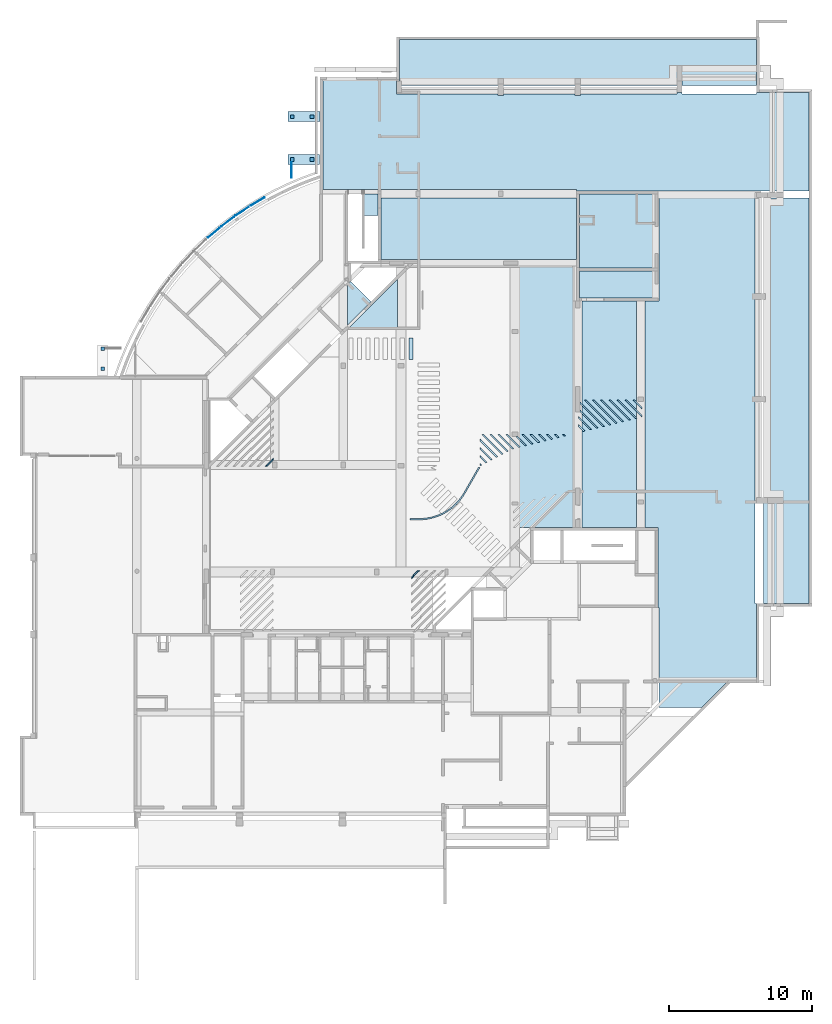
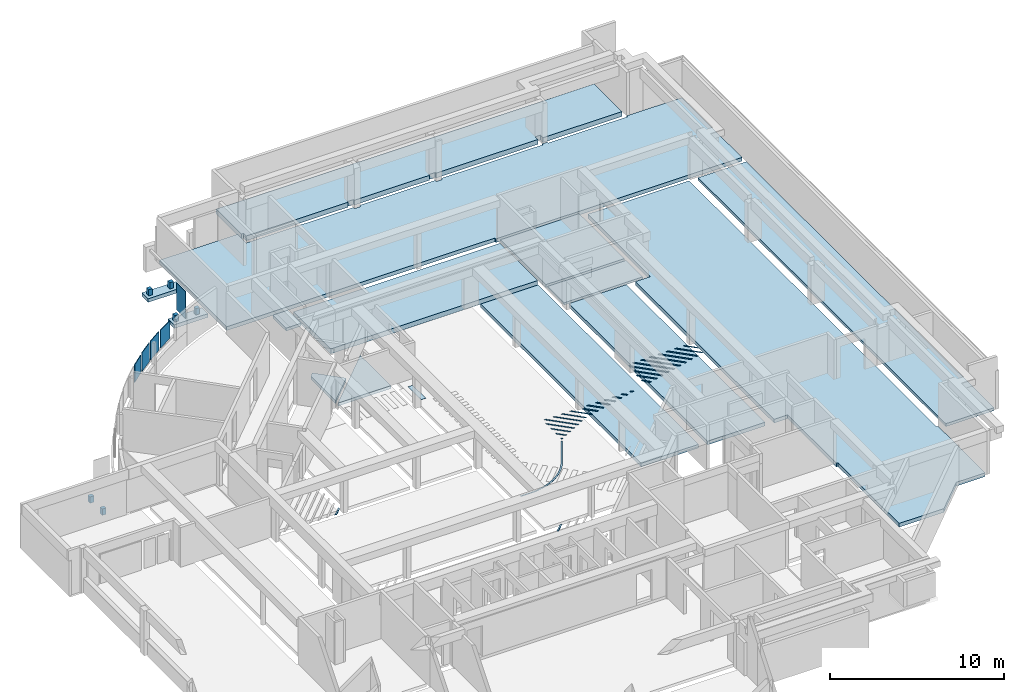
# One storey, part 6 of 22: 23 slabs, 5 plates.
"""IFC4X3_ADD2 building model written with IfcOpenShell, lengths in millimetres."""

from ifc_helpers import new_model, si_unit, point, direction, frame, frame_2d, origin_with_axes, origin_2d_with_axis, place, context, subcontext, project, spatial, polyline, circle_curve, trimmed, segment, composite_curve, rectangle, outline, extrude, source, transform, mapped, material, type_object, type_shapes, element, save


model = new_model("IFC4X3_ADD2")

# Units and contexts
model_context = context("Model", 3, precision=1e-05, world=origin_with_axes(), true_north=direction((0.0, 1.0)))
body_context = subcontext(model_context, "Body", "Model", "MODEL_VIEW")
ifc_project = project(units=[si_unit("LENGTHUNIT", "METRE", prefix="MILLI"), si_unit("AREAUNIT", "SQUARE_METRE"), si_unit("VOLUMEUNIT", "CUBIC_METRE"), si_unit("PLANEANGLEUNIT", "RADIAN"), si_unit("TIMEUNIT", "SECOND"), si_unit("MASSUNIT", "GRAM")], contexts=[model_context])

# Site, building, storey
site_placement = place(None, origin_with_axes())
site = spatial("IfcSite", under=ifc_project, at=site_placement, Name="Site", CompositionType="ELEMENT")
building_placement = place(site_placement, origin_with_axes())
building = spatial("IfcBuilding", under=site, at=building_placement, Name="IFC Building Story")
storey_placement = place(building_placement, frame((0.0, 0.0, -3240.0), z_axis=(0.0, 0.0, 1.0), x_axis=(1.0, 0.0, 0.0)))
storey = spatial("IfcBuildingStorey", under=building, at=storey_placement, Name="K10", Elevation=-3240.0)

# Slabs
ifc_material_1 = material(Name="BB_Beton_Bestaand")
slab_type_1 = type_object("IfcSlabType", Name="BB_Beton_Bestaand 200", PredefinedType="FLOOR", material=ifc_material_1)
slab_1_placement = place(storey_placement, frame((-12500.00406588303, 38300.00000000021, -200.0), z_axis=(0.0, 0.0, 1.0), x_axis=(1.0, 0.0, 0.0)))
element("IfcSlab", 1, at=slab_1_placement, inside=storey, type_object=slab_type_1, Name="Floor:BB_XX_Vloer uit beton, 200 mm", ObjectType="Floor:BB_XX_Vloer uit beton, 200 mm", PredefinedType="FLOOR", context=body_context, shape_type="SweptSolid", body=[
    extrude(rectangle(XDim=5200.004065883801, YDim=5199.999999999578, at=origin_2d_with_axis()), frame((2600.0020329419, 2599.999999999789, 0.0), z_axis=(0.0, 0.0, 1.0), x_axis=(1.0, 0.0, 0.0)), (0.0, 0.0, 1.0), 200.0),
])
slab_2_placement = place(storey_placement, frame((405.0000000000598, 43199.9999999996, -200.0), z_axis=(0.0, 0.0, 1.0), x_axis=(0.0, -1.0, 0.0)))
element("IfcSlab", 2, at=slab_2_placement, inside=storey, type_object=slab_type_1, Name="Floor:BB_XX_Vloer welfsels, 200 mm", ObjectType="Floor:BB_XX_Vloer welfsels, 200 mm", PredefinedType="FLOOR", context=body_context, shape_type="SweptSolid", body=[
    extrude(rectangle(XDim=28404.9999999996, YDim=3194.82543599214, at=frame_2d((0.0, 0.0), x_axis=(-1.0, 0.0))), frame((14202.4999999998, 1597.41271799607, 0.0), z_axis=(0.0, 0.0, 1.0), x_axis=(1.0, 0.0, 0.0)), (0.0, 0.0, 1.0), 200.0),
])
slab_3_placement = place(storey_placement, frame((-27580.0, 43500.00000000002, -200.0), z_axis=(0.0, 0.0, 1.0), x_axis=(0.0, -1.0, 0.0)))
element("IfcSlab", 3, at=slab_3_placement, inside=storey, type_object=slab_type_1, Name="Floor:BB_XX_Vloer welfsels, 200 mm", ObjectType="Floor:BB_XX_Vloer welfsels, 200 mm", PredefinedType="FLOOR", context=body_context, shape_type="SweptSolid", body=[
    extrude(rectangle(XDim=1519.989335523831, YDim=979.9999999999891, at=frame_2d((0.0, 0.0), x_axis=(-1.0, 0.0))), frame((759.9946677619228, 489.9999999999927, 0.0), z_axis=(0.0, 0.0, 1.0), x_axis=(1.0, 0.0, 0.0)), (0.0, 0.0, 1.0), 200.0),
])
slab_type_2 = type_object("IfcSlabType", Name="BB_Beton_Bestaand 250", PredefinedType="FLOOR", material=ifc_material_1)
slab_4_placement = place(storey_placement, frame((-16699.99999999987, 38500.00000000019, -250.0), z_axis=(0.0, 0.0, 1.0), x_axis=(0.0, -1.0, 0.0)))
element("IfcSlab", 4, at=slab_4_placement, inside=storey, type_object=slab_type_2, Name="Floor:BB_XX_Vloer welfsels, 250 mm", ObjectType="Floor:BB_XX_Vloer welfsels, 250 mm", PredefinedType="FLOOR", context=body_context, shape_type="SweptSolid", body=[
    extrude(rectangle(XDim=18400.00000000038, YDim=3799.99999999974, at=frame_2d((0.0, 0.0), x_axis=(-1.0, 0.0))), frame((9200.00000000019, 1899.999999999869, 0.0), z_axis=(0.0, 0.0, 1.0), x_axis=(1.0, 0.0, 0.0)), (0.0, 0.0, 1.0), 250.0),
])
slab_5_placement = place(storey_placement, frame((-12300.00000000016, 36000.00000000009, -250.0), z_axis=(0.0, 0.0, 1.0), x_axis=(0.0, -1.0, 0.0)))
element("IfcSlab", 5, at=slab_5_placement, inside=storey, type_object=slab_type_2, Name="Floor:BB_XX_Vloer welfsels, 250 mm", ObjectType="Floor:BB_XX_Vloer welfsels, 250 mm", PredefinedType="FLOOR", context=body_context, shape_type="SweptSolid", body=[
    extrude(rectangle(XDim=15900.00000000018, YDim=3800.00000000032, at=frame_2d((0.0, 0.0), x_axis=(-1.0, 0.0))), frame((7950.000000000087, 1900.00000000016, 0.0), z_axis=(0.0, 0.0, 1.0), x_axis=(1.0, 0.0, 0.0)), (0.0, 0.0, 1.0), 250.0),
])
slab_type_3 = type_object("IfcSlabType", Name="Floor_BB_XX_Vloer uit beton_ 210 mm1", PredefinedType="NOTDEFINED")
shared_shape_1 = source(origin_with_axes(), body_context, "Body", "SweptSolid", [
    extrude(outline(polyline([(2098.696320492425, -703.8997455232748), (-1401.303679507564, -703.8997455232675), (-1401.303679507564, -690.8817721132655), (-1394.785281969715, -697.4001696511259), (2098.696320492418, 2796.081432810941), (2098.696320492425, -703.8997455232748)])), frame((-27348.6963204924, 34714.18396188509, -210.0), z_axis=(0.0, 0.0, 1.0), x_axis=(1.0, 0.0, 0.0)), (0.0, 0.0, 1.0), 210.0),
    extrude(outline(polyline([(-235.1287453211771, 1185.386235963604), (1185.386235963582, -235.1287453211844), (-475.1287453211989, -1895.643726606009), (-475.1287453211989, 945.3862359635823), (-235.1287453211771, 1185.386235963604)])), frame((-28274.8712546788, 36174.609698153, -210.0), z_axis=(0.0, 0.0, 1.0), x_axis=(1.0, 0.0, 0.0)), (0.0, 0.0, 1.0), 210.0),
])
type_shapes(slab_type_3, [shared_shape_1])
slab_6_placement = place(storey_placement, origin_with_axes())
element("IfcSlab", 6, at=slab_6_placement, inside=storey, type_object=slab_type_3, material=ifc_material_1, Name="Floor:BB_XX_Vloer uit beton, 210 mm", ObjectType="Floor:BB_XX_Vloer uit beton, 210 mm", PredefinedType="FLOOR", context=body_context, shape_type="MappedRepresentation", body=[
    mapped(shared_shape_1, transform((0.0, 0.0, 0.0))),
])
slab_type_4 = type_object("IfcSlabType", Name="BB_Beton_Bestaand 340", PredefinedType="FLOOR", material=ifc_material_1)
slab_7_placement = place(storey_placement, frame((-26399.99999999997, 38899.99999999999, -340.0), z_axis=(0.0, 0.0, 1.0), x_axis=(1.0, 0.0, 0.0)))
element("IfcSlab", 7, at=slab_7_placement, inside=storey, type_object=slab_type_4, Name="Floor:BB_XX_Vloer welfsels, 340 mm", ObjectType="Floor:BB_XX_Vloer welfsels, 340 mm", PredefinedType="FLOOR", context=body_context, shape_type="SweptSolid", body=[
    extrude(rectangle(XDim=13699.99593411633, YDim=4300.000000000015, at=origin_2d_with_axis()), frame((6849.997967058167, 2150.000000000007, 0.0), z_axis=(0.0, 0.0, 1.0), x_axis=(1.0, 0.0, 0.0)), (0.0, 0.0, 1.0), 340.0),
])
slab_8_placement = place(storey_placement, frame((-25105.0, 51105.00000000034, -340.0), z_axis=(0.0, 0.0, 1.0), x_axis=(1.0, 0.0, 0.0)))
element("IfcSlab", 8, at=slab_8_placement, inside=storey, type_object=slab_type_4, Name="Floor:BB_XX_Vloer welfsels, 340 mm", ObjectType="Floor:BB_XX_Vloer welfsels, 340 mm", PredefinedType="FLOOR", context=body_context, shape_type="SweptSolid", body=[
    extrude(outline(polyline([(-10217.76744527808, -434.4931229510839), (-10217.76744527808, -134.4931229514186), (-10367.76744527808, -134.4931229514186), (-10367.76744527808, -34.49312295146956), (-10362.76744527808, -34.49312295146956), (-10362.76744527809, 2760.43810656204), (14672.23255472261, 2760.43810656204), (14672.23255472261, -434.4931229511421), (9432.232554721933, -434.4931229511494), (9432.232554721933, -134.4931229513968), (9092.232554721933, -134.4931229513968), (9092.232554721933, -434.4931229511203), (2337.901167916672, -434.4931229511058), (2337.901167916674, -359.4931229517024), (1937.901167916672, -359.4931229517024), (1937.901167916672, -434.493122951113), (-3062.098832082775, -434.4931229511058), (-3062.098832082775, -359.4931229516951), (-3462.098832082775, -359.4931229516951), (-3462.098832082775, -434.4931229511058), (-10217.76744527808, -434.4931229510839)])), frame((10367.76744527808, 434.4931229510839, 0.0), z_axis=(0.0, 0.0, 1.0), x_axis=(1.0, 0.0, 0.0)), (0.0, 0.0, 1.0), 340.0),
])

# Plates
ifc_material_2 = material(Name="BB_Glas")
shared_shape_2 = source(origin_with_axes(), body_context, "Body", "SweptSolid", [
    extrude(rectangle(XDim=1320.000000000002, YDim=1108.000000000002, at=frame_2d((0.0, 0.0), x_axis=(0.0, 1.0))), frame((0.0, 0.0, -44.0), z_axis=(0.0, 0.0, 1.0), x_axis=(1.0, 0.0, 0.0)), (0.0, 0.0, 1.0), 44.0),
])
for number, where, z_axis, x_axis in (
    (9, (-37156.0835286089, 41567.9783362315, 1585.0), (-0.6041911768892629, 0.7968393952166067, 0.0), (-0.7968393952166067, -0.6041911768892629, 0.0)),
    (10, (-36139.5142251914, 42295.3484664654, 1585.0), (-0.5591648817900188, 0.8290564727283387, 0.0), (-0.8290564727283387, -0.5591648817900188, 0.0)),
):
    element("IfcPlate", number, at=place(storey_placement, frame(where, z_axis=z_axis, x_axis=x_axis)), inside=storey, material=ifc_material_2, Name="BB_07.06_Buitenbeglazing, rechthoekig_GMO:07.06.72#02_Drievoudige beglazing, 44 mm, A/A*/P4A RC2, -1 en +0", ObjectType="BB_07.06_Buitenbeglazing, rechthoekig_GMO:07.06.72#02_Drievoudige beglazing, 44 mm, A/A*/P4A RC2, -1 en +0", PredefinedType="USERDEFINED", context=body_context, shape_type="MappedRepresentation", body=[
        mapped(shared_shape_2, transform((0.0, 0.0, 0.0))),
    ])
shared_shape_3 = source(origin_with_axes(), body_context, "Body", "SweptSolid", [
    extrude(rectangle(XDim=1242.000000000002, YDim=1030.000000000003, at=frame_2d((0.0, 0.0), x_axis=(0.0, 1.0))), frame((0.0, 0.0, -44.0), z_axis=(0.0, 0.0, 1.0), x_axis=(1.0, 0.0, 0.0)), (0.0, 0.0, 1.0), 44.0),
])
plate_1_placement = place(storey_placement, frame((-38133.1083414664, 40783.2004712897, 1585.0), z_axis=(-0.647662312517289, 0.761927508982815, 0.0), x_axis=(-0.761927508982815, -0.647662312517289, 0.0)))
element("IfcPlate", 11, at=plate_1_placement, inside=storey, material=ifc_material_2, Name="BB_07.06_Buitenbeglazing, rechthoekig_GMO:07.06.72#02_Drievoudige beglazing, 44 mm, A/A*/P4A RC2, -1 en +0", ObjectType="BB_07.06_Buitenbeglazing, rechthoekig_GMO:07.06.72#02_Drievoudige beglazing, 44 mm, A/A*/P4A RC2, -1 en +0", PredefinedType="USERDEFINED", context=body_context, shape_type="MappedRepresentation", body=[
    mapped(shared_shape_3, transform((0.0, 0.0, 0.0))),
])
shared_shape_4 = source(origin_with_axes(), body_context, "Body", "SweptSolid", [
    extrude(rectangle(XDim=1242.000000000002, YDim=1096.000000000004, at=frame_2d((0.0, 0.0), x_axis=(0.0, 1.0))), frame((0.0, 0.0, -44.0), z_axis=(0.0, 0.0, 1.0), x_axis=(1.0, 0.0, 0.0)), (0.0, 0.0, 1.0), 44.0),
])
plate_2_placement = place(storey_placement, frame((-35052.9452503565, 42983.1140551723, 1585.0), z_axis=(-0.5114280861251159, 0.8593260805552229, 0.0), x_axis=(0.8593260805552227, 0.5114280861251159, 0.0)))
element("IfcPlate", 12, at=plate_2_placement, inside=storey, material=ifc_material_2, Name="BB_07.06_Buitenbeglazing, rechthoekig_GMO:07.06.72#02_Drievoudige beglazing, 44 mm, A/A*/P4A RC2, -1 en +0", ObjectType="BB_07.06_Buitenbeglazing, rechthoekig_GMO:07.06.72#02_Drievoudige beglazing, 44 mm, A/A*/P4A RC2, -1 en +0", PredefinedType="USERDEFINED", context=body_context, shape_type="MappedRepresentation", body=[
    mapped(shared_shape_4, transform((0.0, 0.0, 0.0))),
])
shared_shape_5 = source(origin_with_axes(), body_context, "Body", "SweptSolid", [
    extrude(rectangle(XDim=1896.000000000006, YDim=1058.000000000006, at=frame_2d((0.0, 0.0), x_axis=(0.0, 1.0))), frame((0.0, 0.0, -40.0), z_axis=(0.0, 0.0, 1.0), x_axis=(1.0, 0.0, 0.0)), (0.0, 0.0, 1.0), 40.0),
])
plate_3_placement = place(storey_placement, frame((-32657.0009542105, 45170.0, 1786.0), z_axis=(1.0, 0.0, 0.0), x_axis=(0.0, 1.0, 0.0)))
element("IfcPlate", 13, at=plate_3_placement, inside=storey, material=ifc_material_2, Name="BB_07.06_Buitenbeglazing, rechthoekig_GMO:XX_Geen", ObjectType="BB_07.06_Buitenbeglazing, rechthoekig_GMO:XX_Geen", PredefinedType="USERDEFINED", context=body_context, shape_type="MappedRepresentation", body=[
    mapped(shared_shape_5, transform((0.0, 0.0, 0.0))),
])

# Slabs
ifc_material_3 = material(Name="BB_Belijning parkeervakken_Nieuw")
slab_type_5 = type_object("IfcSlabType", Name="BB_Belijning parkeervakken_Nieuw 10", PredefinedType="FLOOR", material=ifc_material_3)
slab_9_placement = place(storey_placement, frame((-24450.0, 33400.0, 0.0), z_axis=(0.0, 0.0, 1.0), x_axis=(0.0, -1.0, 0.0)))
element("IfcSlab", 14, at=slab_9_placement, inside=storey, type_object=slab_type_5, Name="Floor:BB_13.XX_Epoxyverf, belijning zebrapaden", ObjectType="Floor:BB_13.XX_Epoxyverf, belijning zebrapaden", PredefinedType="FLOOR", context=body_context, shape_type="SweptSolid", body=[
    extrude(rectangle(XDim=1500.0, YDim=299.9999999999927, at=frame_2d((0.0, 0.0), x_axis=(-1.0, 0.0))), frame((750.0, 150.0, 0.0), z_axis=(0.0, 0.0, 1.0), x_axis=(1.0, 0.0, 0.0)), (0.0, 0.0, 1.0), 9.99999999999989),
])
slab_10_placement = place(storey_placement, frame((-23755.02525316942, 17170.71067811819, 0.0), z_axis=(0.0, 0.0, 1.0), x_axis=(-0.7071067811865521, -0.707106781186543, 0.0)))
element("IfcSlab", 15, at=slab_10_placement, inside=storey, type_object=slab_type_5, Name="Floor:BB_13.XX_Epoxyverf, belijning arcering", ObjectType="Floor:BB_13.XX_Epoxyverf, belijning arcering", PredefinedType="FLOOR", context=body_context, shape_type="SweptSolid", body=[
    extrude(outline(polyline([(-399.9999999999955, 49.99999999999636), (399.9999999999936, 49.99999999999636), (300.0, -50.0), (-299.9999999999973, -50.0), (-399.9999999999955, 49.99999999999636)])), frame((400.0, 50.0, 0.0), z_axis=(0.0, 0.0, 1.0), x_axis=(1.0, 0.0, 0.0)), (0.0, 0.0, 1.0), 9.99999999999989),
])
slab_11_placement = place(storey_placement, frame((-33950.00000000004, 24953.88168179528, 0.0), z_axis=(0.0, 0.0, 1.0), x_axis=(-0.7071067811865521, -0.707106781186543, 0.0)))
element("IfcSlab", 16, at=slab_11_placement, inside=storey, type_object=slab_type_5, Name="Floor:BB_13.XX_Epoxyverf, belijning arcering:7", ObjectType="Floor:BB_13.XX_Epoxyverf, belijning arcering", PredefinedType="FLOOR", context=body_context, shape_type="SweptSolid", body=[
    extrude(outline(polyline([(-291.6534931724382, 50.0), (291.6534931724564, 50.0), (391.6534931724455, -50.0), (-391.6534931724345, -50.0), (-291.6534931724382, 50.0)])), frame((391.6534931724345, 50.0, 0.0), z_axis=(0.0, 0.0, 1.0), x_axis=(1.0, 0.0, 0.0)), (0.0, 0.0, 1.0), 9.99999999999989),
])
ifc_material_4 = material(Name="<Unnamed>")
slab_type_6 = type_object("IfcSlabType", Name="<Unnamed> 250", PredefinedType="FLOOR", material=ifc_material_4)
slab_12_placement = place(storey_placement, frame((-32920.06348142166, 48552.62817700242, -310.0), z_axis=(0.0, 0.0, 1.0), x_axis=(1.0, 0.0, 0.0)))
element("IfcSlab", 17, at=slab_12_placement, inside=storey, type_object=slab_type_6, Name="Foundation Slab:Foundation Slab 250 mm dik", ObjectType="Foundation Slab:Foundation Slab 250 mm dik", PredefinedType="FLOOR", context=body_context, shape_type="SweptSolid", body=[
    extrude(outline(polyline([(1130.09726771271, 349.999746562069), (1130.09726771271, -349.9999155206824), (-1130.097267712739, -349.9999155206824), (-1130.097267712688, 350.0000844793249), (1130.09726771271, 349.999746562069)])), frame((1130.097267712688, 349.9999155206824, 0.0), z_axis=(0.0, 0.0, 1.0), x_axis=(1.0, 0.0, 0.0)), (0.0, 0.0, 1.0), 250.0),
])
slab_13_placement = place(storey_placement, frame((-32920.06403460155, 45552.62817700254, -310.0), z_axis=(0.0, 0.0, 1.0), x_axis=(0.999999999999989, -1.495080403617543e-07, 0.0)))
element("IfcSlab", 18, at=slab_13_placement, inside=storey, type_object=slab_type_6, Name="Foundation Slab:Foundation Slab 250 mm dik", ObjectType="Foundation Slab:Foundation Slab 250 mm dik", PredefinedType="FLOOR", context=body_context, shape_type="SweptSolid", body=[
    extrude(outline(polyline([(1112.597215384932, 349.999916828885), (1112.597320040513, -349.9997504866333), (-1112.597215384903, -350.0000831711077), (-1112.597320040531, 349.999916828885), (1112.597215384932, 349.999916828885)])), frame((1112.597320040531, 350.000083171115, 0.0), z_axis=(0.0, 0.0, 1.0), x_axis=(1.0, 0.0, 0.0)), (0.0, 0.0, 1.0), 250.0),
])
for number, where, z_axis, x_axis, name in (
    (19, (-31355.0635337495, 49027.6281770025, -60.0), (0.0, -1.0, 0.0), (0.0, 0.0, 1.0), "Foundation Slab:Foundation Slab 440 mm dik"),
    (20, (-32755.0635337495, 49027.6281770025, -60.0), (0.0, -1.0, 0.0), (0.0, 0.0, 1.0), "Foundation Slab:Foundation Slab 440 mm dik"),
    (21, (-32755.0639822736, 46027.6281770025, -60.0), (0.0, -1.0, 0.0), (0.0, 0.0, 1.0), "Foundation Slab:Foundation Slab 440 mm dik"),
    (22, (-31355.0639822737, 46027.6281770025, -60.0), (0.0, -1.0, 0.0), (0.0, 0.0, 1.0), "Foundation Slab:Foundation Slab 440 mm dik"),
):
    element("IfcSlab", number, at=place(storey_placement, frame(where, z_axis=z_axis, x_axis=x_axis)), inside=storey, type_object=slab_type_6, Name=name, ObjectType="Foundation Slab:Foundation Slab 440 mm dik", PredefinedType="FLOOR", context=body_context, shape_type="SweptSolid", body=[
        extrude(outline(polyline([(-220.0, -125.0), (-220.0, 125.0), (220.0, 125.0), (220.0, -125.0), (-220.0, -125.0)])), frame((220.0, -125.0, 0.0), z_axis=(0.0, 0.0, 1.0), x_axis=(1.0, 0.0, 0.0)), (0.0, 0.0, 1.0), 249.999999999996),
    ])
for number, where, z_axis, x_axis, name in (
    (23, (-46027.6300917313, 31109.869753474, -60.0), (0.0, 1.0, 0.0), (1.0, 0.0, 0.0), "Foundation Slab:Foundation Slab 440 mm dik"),
    (24, (-46027.6300917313, 32509.869753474, -60.0), (0.0, 1.0, 0.0), (1.0, 0.0, 0.0), "Foundation Slab:Foundation Slab 440 mm dik"),
):
    element("IfcSlab", number, at=place(storey_placement, frame(where, z_axis=z_axis, x_axis=x_axis)), inside=storey, type_object=slab_type_6, Name=name, ObjectType="Foundation Slab:Foundation Slab 440 mm dik", PredefinedType="FLOOR", context=body_context, shape_type="SweptSolid", body=[
        extrude(outline(polyline([(-125.0000000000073, 220.0), (125.0, 220.0), (125.0, -220.0), (-125.0000000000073, -220.0), (-125.0000000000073, 220.0)])), frame((125.0000000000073, -220.0, -3.637978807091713e-12), z_axis=(0.0, 0.0, 1.0), x_axis=(1.0, 0.0, 0.0)), (0.0, 0.0, 1.0), 249.9999999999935),
    ])
ifc_material_5 = material(Name="BB_Belijning parkeervakken_Bestaand")
slab_type_7 = type_object("IfcSlabType", Name="Floor_BB_XX_Epoxyverf_ belijning arcering_ bestaand1", PredefinedType="NOTDEFINED")
shared_shape_6 = source(origin_with_axes(), body_context, "Body", "SweptSolid", [
    extrude(outline(polyline([(438.6180271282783, -501.8530773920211), (-755.3697549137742, 692.1347046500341), (-613.9483986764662, 692.1347046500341), (465.3500632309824, -387.1637572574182), (465.3500632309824, -495.252574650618), (438.6180271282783, -501.8530773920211)])), frame((-8565.35006323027, 28357.86529535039, 0.0), z_axis=(0.0, 0.0, 1.0), x_axis=(1.0, 0.0, 0.0)), (0.0, 0.0, 1.0), 9.99999999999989),
    extrude(outline(polyline([(655.4912291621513, -726.2019072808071), (-772.6629966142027, 701.9523184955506), (-631.2416403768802, 701.9523184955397), (748.4134078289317, -677.7027297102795), (655.4912291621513, -726.2019072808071)])), frame((-18593.1361704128, 25948.0476815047, 0.0), z_axis=(0.0, 0.0, 1.0), x_axis=(1.0, 0.0, 0.0)), (0.0, 0.0, 1.0), 9.999999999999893),
    extrude(outline(polyline([(141.7714090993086, -212.4820872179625), (-198.4799727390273, 127.7692946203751), (-198.4799727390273, 269.1906508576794), (255.1885363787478, -184.4778582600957), (141.7714090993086, -212.4820872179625)])), frame((-12351.5200272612, 27060.3420626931, 0.0), z_axis=(0.0, 0.0, 1.0), x_axis=(1.0, 0.0, 0.0)), (0.0, 0.0, 1.0), 9.999999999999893),
    extrude(outline(polyline([(368.6056636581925, -439.3163417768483), (-425.314227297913, 354.6035491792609), (-425.314227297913, 496.0249054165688), (482.0227909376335, -411.312112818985), (368.6056636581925, -439.3163417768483)])), frame((-12124.6857727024, 27399.1932330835, 0.0), z_axis=(0.0, 0.0, 1.0), x_axis=(1.0, 0.0, 0.0)), (0.0, 0.0, 1.0), 9.99999999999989),
    extrude(outline(polyline([(545.4399182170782, -616.1505963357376), (-602.1484818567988, 531.437803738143), (-602.1484818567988, 672.8591599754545), (658.8570454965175, -588.1463673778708), (545.4399182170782, -616.1505963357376)])), frame((-11847.8515181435, 27688.0444034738, 0.0), z_axis=(0.0, 0.0, 1.0), x_axis=(1.0, 0.0, 0.0)), (0.0, 0.0, 1.0), 9.999999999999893),
    extrude(outline(polyline([(772.274172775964, -842.9848508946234), (-828.9827364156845, 758.2720582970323), (-828.9827364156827, 899.6934145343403), (885.691300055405, -814.9806219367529), (772.274172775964, -842.9848508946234)])), frame((-11621.0172635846, 28026.8955738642, 0.0), z_axis=(0.0, 0.0, 1.0), x_axis=(1.0, 0.0, 0.0)), (0.0, 0.0, 1.0), 9.999999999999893),
    extrude(outline(polyline([(813.3265597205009, -884.0372378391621), (-940.7458014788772, 870.0351233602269), (-799.3244452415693, 870.0351233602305), (926.7436869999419, -856.0330088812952), (813.3265597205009, -884.0372378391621)])), frame((-11208.4011414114, 28179.9648766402, 0.0), z_axis=(0.0, 0.0, 1.0), x_axis=(1.0, 0.0, 0.0)), (0.0, 0.0, 1.0), 9.999999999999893),
    extrude(outline(polyline([(757.3181018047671, -828.0287799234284), (-884.7373435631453, 814.0266654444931), (-743.3159873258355, 814.0266654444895), (870.7352290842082, -800.0245509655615), (757.3181018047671, -828.0287799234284)])), frame((-10698.7241743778, 28235.9733345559, 0.0), z_axis=(0.0, 0.0, 1.0), x_axis=(1.0, 0.0, 0.0)), (0.0, 0.0, 1.0), 9.999999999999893),
    extrude(outline(polyline([(701.309643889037, -772.020322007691), (-828.7288856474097, 758.018207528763), (-687.3075294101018, 758.018207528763), (814.7267711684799, -744.0160930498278), (701.309643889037, -772.020322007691)])), frame((-10189.0472073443, 28291.9817924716, 0.0), z_axis=(0.0, 0.0, 1.0), x_axis=(1.0, 0.0, 0.0)), (0.0, 0.0, 1.0), 9.999999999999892),
    extrude(outline(polyline([(645.3011859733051, -716.0118640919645), (-772.7204277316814, 702.0097496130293), (-631.2990714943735, 702.0097496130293), (758.718313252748, -688.0076351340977), (645.3011859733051, -716.0118640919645)])), frame((-9679.37024031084, 28347.9902503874, 0.0), z_axis=(0.0, 0.0, 1.0), x_axis=(1.0, 0.0, 0.0)), (0.0, 0.0, 1.0), 9.999999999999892),
    extrude(outline(polyline([(589.2927280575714, -660.0034061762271), (-716.7119698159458, 646.0012916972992), (-575.2906135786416, 646.0012916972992), (702.709855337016, -631.9991772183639), (589.2927280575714, -660.0034061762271)])), frame((-9169.69327327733, 28403.9987083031, 0.0), z_axis=(0.0, 0.0, 1.0), x_axis=(1.0, 0.0, 0.0)), (0.0, 0.0, 1.0), 9.999999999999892),
    extrude(outline(polyline([(292.1618575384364, -362.8725356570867), (-362.8725356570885, 292.1618575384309), (-221.4511794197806, 292.1618575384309), (292.1618575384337, -221.4511794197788), (292.1618575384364, -362.8725356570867)])), frame((-8392.16185753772, 28757.838142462, 0.0), z_axis=(0.0, 0.0, 1.0), x_axis=(1.0, 0.0, 0.0)), (0.0, 0.0, 1.0), 9.99999999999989),
    extrude(outline(polyline([(173.4111388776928, -244.1218169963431), (-300.8303806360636, 230.1197025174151), (-159.409024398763, 230.1197025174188), (286.8282661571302, -216.1175880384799), (173.4111388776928, -244.1218169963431)])), frame((-15105.17081174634, 26419.88029748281, 0.0), z_axis=(0.0, 0.0, 1.0), x_axis=(1.0, 0.0, 0.0)), (0.0, 0.0, 1.0), 9.999999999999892),
    extrude(outline(polyline([(117.40268096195, -188.1133590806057), (-244.8219227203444, 174.1112446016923), (-103.4005664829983, 174.1112446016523), (230.819808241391, -160.1091301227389), (117.40268096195, -188.1133590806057)])), frame((-14595.4938447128, 26475.8887553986, 0.0), z_axis=(0.0, 0.0, 1.0), x_axis=(1.0, 0.0, 0.0)), (0.0, 0.0, 1.0), 9.999999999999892),
    extrude(outline(polyline([(61.39422304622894, -132.1049011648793), (-188.8134648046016, 118.1027866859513), (-47.39210856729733, 118.1027866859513), (174.8113503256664, -104.100672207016), (61.39422304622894, -132.1049011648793)])), frame((-14085.8168776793, 26531.8972133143, 0.0), z_axis=(0.0, 0.0, 1.0), x_axis=(1.0, 0.0, 0.0)), (0.0, 0.0, 1.0), 9.999999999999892),
    extrude(outline(polyline([(5.385765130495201, -76.0964432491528), (-132.8050068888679, 62.09432877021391), (8.616349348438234, 62.09432877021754), (118.8028924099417, -48.09221429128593), (5.385765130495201, -76.0964432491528)])), frame((-13576.1399106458, 26587.90567123, 0.0), z_axis=(0.0, 0.0, 1.0), x_axis=(1.0, 0.0, 0.0)), (0.0, 0.0, 1.0), 9.999999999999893),
    extrude(outline(polyline([(397.4449705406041, -468.1556486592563), (-524.8642122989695, 454.1535341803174), (-383.4428560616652, 454.153534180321), (510.8620978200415, -440.151419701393), (397.4449705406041, -468.1556486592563)])), frame((-17143.8786798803, 26195.84646581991, 0.0), z_axis=(0.0, 0.0, 1.0), x_axis=(1.0, 0.0, 0.0)), (0.0, 0.0, 1.0), 9.999999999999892),
    extrude(outline(polyline([(266.4365126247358, -337.1471907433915), (-393.8557543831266, 323.1450762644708), (-252.434398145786, 323.1450762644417), (379.8536399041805, -309.1429617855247), (266.4365126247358, -337.1471907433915)])), frame((-16559.2017128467, 26176.8549237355, 0.0), z_axis=(0.0, 0.0, 1.0), x_axis=(1.0, 0.0, 0.0)), (0.0, 0.0, 1.0), 9.999999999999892),
    extrude(outline(polyline([(285.4280547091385, -356.1387328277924), (-412.8472964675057, 342.1366183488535), (-271.4259402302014, 342.1366183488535), (398.8451819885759, -328.1345038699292), (285.4280547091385, -356.1387328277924)])), frame((-16124.5247458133, 26307.8633816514, 0.0), z_axis=(0.0, 0.0, 1.0), x_axis=(1.0, 0.0, 0.0)), (0.0, 0.0, 1.0), 9.999999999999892),
    extrude(outline(polyline([(229.4195967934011, -300.1302749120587), (-356.8388385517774, 286.1281604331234), (-215.4174823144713, 286.1281604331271), (342.8367240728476, -272.1260459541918), (229.4195967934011, -300.1302749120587)])), frame((-15614.8477787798, 26363.8718395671, 0.0), z_axis=(0.0, 0.0, 1.0), x_axis=(1.0, 0.0, 0.0)), (0.0, 0.0, 1.0), 9.999999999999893),
    extrude(outline(polyline([(547.1026273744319, -617.8133054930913), (-593.5637167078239, 522.8530385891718), (-593.5637167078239, 664.274394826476), (640.024806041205, -569.3141279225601), (547.1026273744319, -617.8133054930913)])), frame((-18856.4362832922, 25645.6623694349, 0.0), z_axis=(0.0, 0.0, 1.0), x_axis=(1.0, 0.0, 0.0)), (0.0, 0.0, 1.0), 9.999999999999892),
    extrude(outline(polyline([(558.4928740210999, -629.203552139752), (-675.6646414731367, 604.9539633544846), (-534.2432852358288, 604.9539633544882), (651.415052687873, -580.7043745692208), (558.4928740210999, -629.203552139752)])), frame((-18124.4491006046, 26045.0460366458, 0.0), z_axis=(0.0, 0.0, 1.0), x_axis=(1.0, 0.0, 0.0)), (0.0, 0.0, 1.0), 9.999999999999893),
    extrude(outline(polyline([(234.495647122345, -306.9955846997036), (-799.8304515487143, 727.330513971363), (-658.4090953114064, 727.330513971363), (347.9127744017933, -278.9913557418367), (306.7793074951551, -289.1477673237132), (302.2674508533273, -280.503258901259), (266.7843669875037, -299.023061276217), (234.495647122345, -306.9955846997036)])), frame((-17434.5978655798, 25922.6694860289, 0.0), z_axis=(0.0, 0.0, 1.0), x_axis=(1.0, 0.0, 0.0)), (0.0, 0.0, 1.0), 9.999999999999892),
    extrude(outline(polyline([(-10.43044462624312, -60.28023349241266), (-36.03064470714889, -34.68003341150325), (-36.03064470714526, 106.741322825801), (82.49173404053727, -11.78105592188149), (-10.43044462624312, -60.28023349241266)])), frame((-19413.9693552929, 24506.1391665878, 0.0), z_axis=(0.0, 0.0, 1.0), x_axis=(1.0, 0.0, 0.0)), (0.0, 0.0, 1.0), 9.99999999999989),
    extrude(outline(polyline([(175.4139127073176, -246.1245908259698), (-221.8750020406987, 151.1643239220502), (-221.8750020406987, 292.5856801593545), (268.3360913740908, -197.6254132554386), (175.4139127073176, -246.1245908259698)])), frame((-19228.1249979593, 24885.9802342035, 0.0), z_axis=(0.0, 0.0, 1.0), x_axis=(1.0, 0.0, 0.0)), (0.0, 0.0, 1.0), 9.999999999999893),
    extrude(outline(polyline([(361.2582700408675, -431.9689481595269), (-407.7193593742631, 337.0086812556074), (-407.7193593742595, 478.4300374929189), (454.1804487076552, -383.4697705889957), (361.2582700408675, -431.9689481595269)])), frame((-19042.2806406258, 25265.8213018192, 0.0), z_axis=(0.0, 0.0, 1.0), x_axis=(1.0, 0.0, 0.0)), (0.0, 0.0, 1.0), 9.999999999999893),
    extrude(outline(composite_curve([segment(polyline([(-635.3430349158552, -3700.000000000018), (-635.3430349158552, -3600.000000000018)]), True, "CONTINUOUS"), segment(polyline([(-635.3430349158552, -3600.000000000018), (-5.820766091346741e-11, -3599.999999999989)]), True, "CONTINUOUS"), segment(trimmed(circle_curve(origin_2d_with_axis(), 3599.999999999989), [point((-5.820766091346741e-11, -3599.999999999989))], [point((3117.691453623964, -1799.999999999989))], True, "CARTESIAN"), True, "CONTINUOUS"), segment(polyline([(3117.691453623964, -1799.999999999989), (4164.656965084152, 13.39745962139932)]), True, "CONTINUOUS"), segment(polyline([(4164.656965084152, 13.39745962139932), (4164.656965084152, -45.4922083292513)]), True, "CONTINUOUS"), segment(polyline([(4164.656965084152, -45.4922083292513), (4246.127053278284, -45.4922083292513)]), True, "CONTINUOUS"), segment(polyline([(4246.127053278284, -45.4922083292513), (3204.293994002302, -1850.000000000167)]), True, "CONTINUOUS"), segment(trimmed(circle_curve(origin_2d_with_axis(), 3699.999999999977), [point((3204.293994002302, -1850.000000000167))], [point((2.037268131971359e-10, -3699.999999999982))], False, "CARTESIAN"), True, "CONTINUOUS"), segment(polyline([(2.037268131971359e-10, -3699.999999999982), (-635.3430349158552, -3700.000000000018)]), True, "CONTINUOUS")], self_intersect=False)), frame((-23714.65696508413, 24350.00000000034, 0.0), z_axis=(0.0, 0.0, 1.0), x_axis=(1.0, 0.0, 0.0)), (0.0, 0.0, 1.0), 9.999999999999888),
])
type_shapes(slab_type_7, [shared_shape_6])
slab_14_placement = place(storey_placement, origin_with_axes())
element("IfcSlab", 25, at=slab_14_placement, inside=storey, type_object=slab_type_7, material=ifc_material_5, Name="Floor:BB_XX_Epoxyverf, belijning arcering, bestaand", ObjectType="Floor:BB_XX_Epoxyverf, belijning arcering, bestaand", PredefinedType="FLOOR", context=body_context, shape_type="MappedRepresentation", body=[
    mapped(shared_shape_6, transform((0.0, 0.0, 0.0))),
])
slab_type_8 = type_object("IfcSlabType", Name="BB_Beton_Bestaand 260", PredefinedType="FLOOR", material=ifc_material_1)
slab_15_placement = place(storey_placement, frame((-7899.99999999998, 43199.9999999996, -260.0), z_axis=(0.0, 0.0, 1.0), x_axis=(0.0, -1.0, 0.0)))
element("IfcSlab", 26, at=slab_15_placement, inside=storey, type_object=slab_type_8, Name="Floor:BB_XX_Vloer welfsels, 260 mm", ObjectType="Floor:BB_XX_Vloer welfsels, 260 mm", PredefinedType="FLOOR", context=body_context, shape_type="SweptSolid", body=[
    extrude(outline(polyline([(6287.142857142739, -2434.80983207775), (687.1428571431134, -2434.80983207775), (687.1428571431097, -3334.80983207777), (-15212.85714285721, -3334.80983207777), (-15212.85714285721, -2334.80983207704), (-22412.85714285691, -2334.80983207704), (-22412.85714285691, 4370.19016792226), (5992.14285714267, 4370.19016792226), (5992.14285714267, 4470.19016792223), (11372.14285714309, 4470.190167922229), (11372.14285714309, 2556.358992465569), (13287.14285714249, 641.3589924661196), (13287.14285714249, -2334.809832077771), (6287.142857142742, -2334.80983207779), (6287.142857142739, -2434.80983207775)])), frame((22412.85714285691, 3334.809832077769, 0.0), z_axis=(0.0, 0.0, 1.0), x_axis=(1.0, 0.0, 0.0)), (0.0, 0.0, 1.0), 260.0),
])
slab_16_placement = place(storey_placement, frame((-30464.9999999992, 43699.99999999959, -260.0), z_axis=(0.0, 0.0, 1.0), x_axis=(1.0, 0.0, 0.0)))
element("IfcSlab", 27, at=slab_16_placement, inside=storey, type_object=slab_type_8, Name="Floor:BB_XX_Vloer welfsels, 260 mm", ObjectType="Floor:BB_XX_Vloer welfsels, 260 mm", PredefinedType="FLOOR", context=body_context, shape_type="SweptSolid", body=[
    extrude(outline(polyline([(-238.8868470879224, -5662.729773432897), (-238.8868470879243, -5562.729773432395), (-18003.88278120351, -5562.729773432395), (-18003.88278120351, 2142.270226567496), (-12833.88278120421, 2142.270226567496), (-12833.88278120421, 1142.270226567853), (-5738.214168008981, 1142.270226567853), (-5738.214168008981, 1017.270226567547), (-5338.214168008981, 1017.270226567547), (-5338.214168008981, 1142.270226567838), (-338.2141680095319, 1142.270226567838), (-338.2141680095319, 1017.270226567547), (61.78583199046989, 1017.270226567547), (61.78583199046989, 1142.270226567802), (6816.117218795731, 1142.270226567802), (6816.117218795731, 1242.270226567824), (7156.117218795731, 1242.270226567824), (7156.117218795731, 1142.270226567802), (12396.11721879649, 1142.270226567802), (12396.11721879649, 1237.297734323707), (16061.15742514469, 1237.297734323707), (16061.15742514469, -5662.729773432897), (-238.8868470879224, -5662.729773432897)])), frame((18003.88278120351, 5662.729773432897, 0.0), z_axis=(0.0, 0.0, 1.0), x_axis=(1.0, 0.0, 0.0)), (0.0, 0.0, 1.0), 260.0),
])
slab_type_9 = type_object("IfcSlabType", Name="BB_Beton_Bestaand 150", PredefinedType="FLOOR", material=ifc_material_1)
slab_17_placement = place(storey_placement, frame((-12500.00406588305, 36199.99999999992, -150.0), z_axis=(0.0, 0.0, 1.0), x_axis=(1.0, 0.0, 0.0)))
element("IfcSlab", 28, at=slab_17_placement, inside=storey, type_object=slab_type_9, Name="Floor:BB_XX_Vloer uit beton, 150 mm", ObjectType="Floor:BB_XX_Vloer uit beton, 150 mm", PredefinedType="FLOOR", context=body_context, shape_type="SweptSolid", body=[
    extrude(rectangle(XDim=5200.00406588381, YDim=1900.000000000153, at=origin_2d_with_axis()), frame((2600.002032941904, 950.0000000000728, 0.0), z_axis=(0.0, 0.0, 1.0), x_axis=(1.0, 0.0, 0.0)), (0.0, 0.0, 1.0), 150.0),
])

save(model, "model.ifc")
